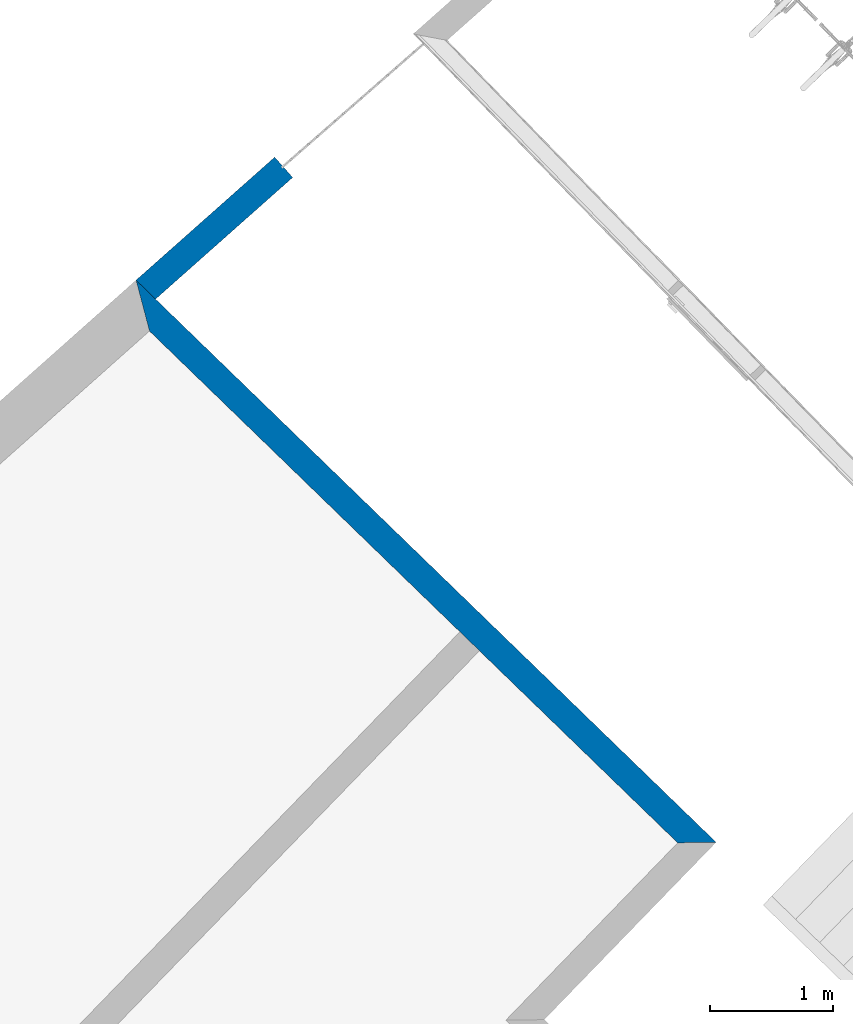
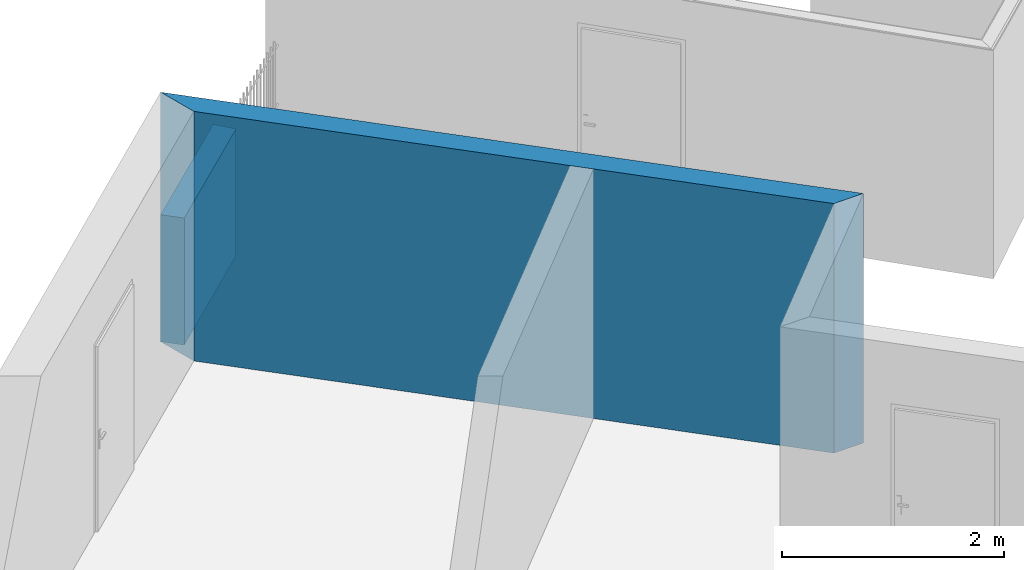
# One storey, part 36 of 195: 2 walls.
"""IFC2X3 building model written with IfcOpenShell, lengths in metres."""

from ifc_helpers import new_model, entity, si_unit, converted_unit, derived_unit, money_unit, direction, frame, origin_with_axes, place, context, subcontext, project, spatial, polyline, outline, extrude, material, layer, layer_set, layer_usage, type_object, element, save


model = new_model("IFC2X3")

# Units and contexts
model_context = context("Model", 3, precision=1e-05, world=origin_with_axes(), true_north=direction((0.0, 1.0)))
body_context = subcontext(model_context, "Body", "Model", "MODEL_VIEW")
ifc_project = project(units=[si_unit("LENGTHUNIT", "METRE"), si_unit("AREAUNIT", "SQUARE_METRE"), si_unit("VOLUMEUNIT", "CUBIC_METRE"), converted_unit("PLANEANGLEUNIT", "DEGREE", entity("IfcPlaneAngleMeasure", 0.0174532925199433), si_unit("PLANEANGLEUNIT", "RADIAN"), dimensions=[0, 0, 0, 0, 0, 0, 0]), money_unit("CHF"), converted_unit("TIMEUNIT", "Year", entity("IfcTimeMeasure", 31557600.0), si_unit("TIMEUNIT", "SECOND"), dimensions=[0, 0, 1, 0, 0, 0, 0]), si_unit("MASSUNIT", "GRAM", prefix="KILO"), si_unit("THERMODYNAMICTEMPERATUREUNIT", "DEGREE_CELSIUS"), si_unit("LUMINOUSINTENSITYUNIT", "LUMEN"), si_unit("ENERGYUNIT", "JOULE", prefix="MEGA"), derived_unit("THERMALCONDUCTANCEUNIT", [(si_unit("POWERUNIT", "WATT"), 1), (si_unit("LENGTHUNIT", "METRE"), -1), (si_unit("THERMODYNAMICTEMPERATUREUNIT", "KELVIN"), -1)]), derived_unit("SPECIFICHEATCAPACITYUNIT", [(si_unit("ENERGYUNIT", "JOULE"), 1), (si_unit("MASSUNIT", "GRAM", prefix="KILO"), -1), (si_unit("THERMODYNAMICTEMPERATUREUNIT", "KELVIN"), -1)]), derived_unit("MASSDENSITYUNIT", [(si_unit("MASSUNIT", "GRAM", prefix="KILO"), 1), (si_unit("VOLUMEUNIT", "CUBIC_METRE"), -1)])], contexts=[model_context])

# Site, building, storey
site_placement = place(None, origin_with_axes())
site = spatial("IfcSite", under=ifc_project, at=site_placement, Name="Site", CompositionType="ELEMENT")
building_placement = place(site_placement, origin_with_axes())
building = spatial("IfcBuilding", under=site, at=building_placement, Name="Bâtiment", CompositionType="ELEMENT")
storey_placement = place(building_placement, origin_with_axes())
storey = spatial("IfcBuildingStorey", under=building, at=storey_placement, Name="rdc", CompositionType="ELEMENT", Elevation=0.0)

# Walls
ifc_material_1 = material(Name="Parpaing 312445824")
ifc_layer_1 = layer(ifc_material_1, 0.22, ventilated="UNKNOWN")
ifc_layer_set_1 = layer_set([ifc_layer_1], Name="Beton  22 0836643198")
ifc_layer_usage_1 = layer_usage(ifc_layer_set_1, "AXIS2", "POSITIVE", 0.0)
wall_type_1 = type_object("IfcWallType", Name="Beton  22 0836643198 220", PredefinedType="NOTDEFINED")
wall_1_placement = place(storey_placement, frame((9527.225489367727, -1056.944041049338, 57.7), z_axis=(0.0, 0.0, 1.0), x_axis=(-0.7181763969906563, 0.6958610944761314, 0.0)))
element("IfcWallStandardCase", 1, at=wall_1_placement, inside=storey, type_object=wall_type_1, material=ifc_layer_usage_1, Name="Mur-108", context=body_context, shape_type="SweptSolid", body=[
    extrude(outline(polyline([(0.0, 0.0), (6.540732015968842, 0.0), (6.176001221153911, 0.2200000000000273), (0.220000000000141, 0.2200000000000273), (0.0, 0.0)])), origin_with_axes(), (0.0, 0.0, 1.0), 2.75),
])
ifc_material_2 = material(Name="Empty Fill 3000033799")
ifc_layer_2 = layer(ifc_material_2, 0.22, ventilated="UNKNOWN")
ifc_layer_set_2 = layer_set([ifc_layer_2], Name="acrotère 22")
ifc_layer_usage_2 = layer_usage(ifc_layer_set_2, "AXIS2", "POSITIVE", 0.0)
wall_type_2 = type_object("IfcWallType", Name="acrotère 22 220", PredefinedType="NOTDEFINED")
wall_2_placement = place(storey_placement, frame((9523.65089253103, -1051.396408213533, 57.7), z_axis=(0.0, 0.0, 1.0), x_axis=(-0.7480225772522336, -0.6636732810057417, 0.0)))
element("IfcWallStandardCase", 2, at=wall_2_placement, inside=storey, type_object=wall_type_2, material=ifc_layer_usage_2, Name="Mur-108", context=body_context, shape_type="SweptSolid", body=[
    extrude(outline(polyline([(0.0, 0.0), (1.501027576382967, 0.0), (1.484394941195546, 0.2200000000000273), (0.0, 0.2200000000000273), (0.0, 0.0)])), origin_with_axes(), (0.0, 0.0, 1.0), 1.4),
])

save(model, "model.ifc")
